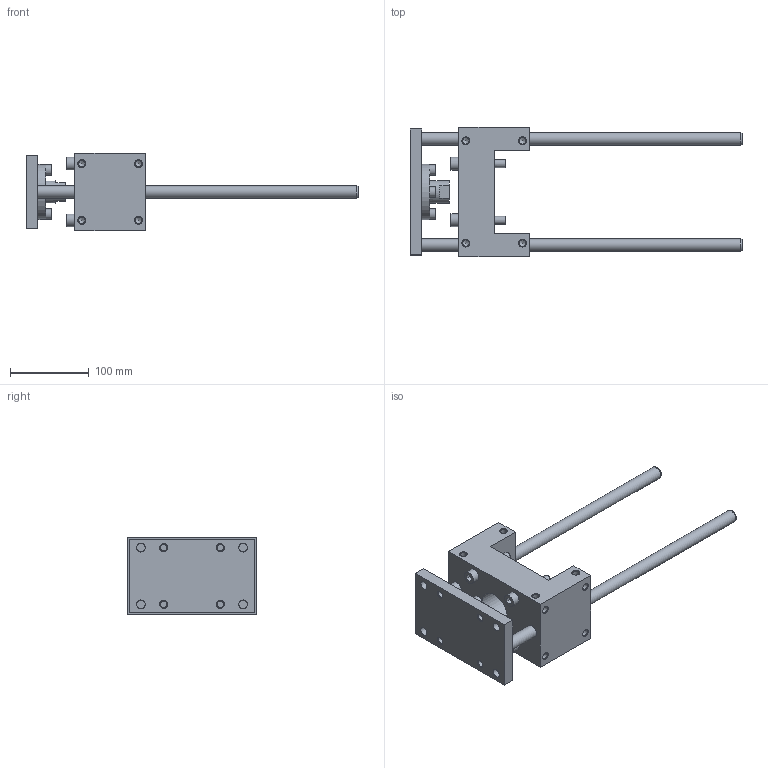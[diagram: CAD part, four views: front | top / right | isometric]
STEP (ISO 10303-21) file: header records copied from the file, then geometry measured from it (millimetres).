
FILE_DESCRIPTION( ( 'STEP AP214' ), '1' );
FILE_NAME( 'U:/Etudes/Top Solid/BIBLIO 3D AVM/TOP/PNEUMATIQUE/GUIDAGES/Type 34 (en U)/_Légère/3485130.step', '2005-05-27T12:35:38', ( ' ' ), ( ' ' ), 'XStep 1.0', ' ', ' ' );
FILE_SCHEMA( ( 'automotive_design' ) );
Length unit declared in the file: metre
Products named in the file (2): 1; 2
Bounding box: 422 x 165 x 98 mm (x, y, z)
Volume: 1303033.2 mm3; surface area: 208330.9 mm2
Topology: 2 solids, 7 shells, 245 faces, 598 edges, 389 vertices
Faces by surface type: plane 108, cylinder 92, cone 45
Full cylindrical faces by diameter (mm): 4.918 x4, 8 x8, 8.376 x32, 8.5 x4, 10 x8, 11 x8, 13 x4, 16 x8, 18.376 x2, 29 x1, 32 x1, 42 x1, 45 x2, 70 x1
Entity records: 8253 total; most frequent: CARTESIAN_POINT 1235, DIRECTION 1080, ORIENTED_EDGE 790, AXIS2_PLACEMENT_3D 446, EDGE_LOOP 436, EDGE_CURVE 395, FACE_OUTER_BOUND 329, VERTEX_POINT 329
